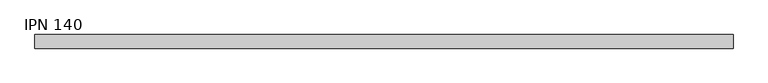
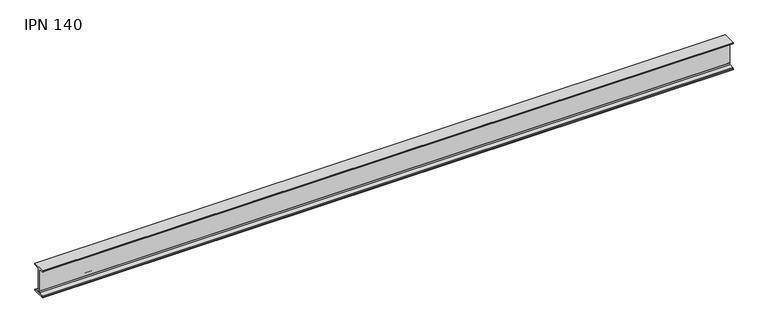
"""IFC4 building model written with IfcOpenShell, lengths in millimetres: beam geometry, IPN - Secciones en I con alas cónicas : IPN 140."""

from ifc_helpers import new_model, si_unit, point, frame, frame_2d, origin, place, context, project, spatial, polyline, circle_curve, trimmed, segment, composite_curve, outline, extrude, source, transform, mapped, element, save


def ipn_140_681980e7(model_context):
    return source(origin(), model_context, "Body", "SweptSolid", [
        extrude(outline(composite_curve([segment(polyline([(33.0, 70.0), (33.0, 66.6671583)]), True, "CONTINUOUS"), segment(trimmed(circle_curve(frame_2d((29.6, 66.6671583)), 3.4), [point((33.0, 66.6671583))], [point((30.0714027, 63.2999964))], False, "CARTESIAN"), True, "CONTINUOUS"), segment(polyline([(30.0714027, 63.2999964), (7.7597073, 60.176359)]), True, "CONTINUOUS"), segment(trimmed(circle_curve(frame_2d((8.55, 54.5314111)), 5.7), [point((7.7597073, 60.176359))], [point((2.85, 54.5314111))], True, "CARTESIAN"), True, "CONTINUOUS"), segment(polyline([(2.85, 54.5314111), (2.85, -54.5314111)]), True, "CONTINUOUS"), segment(trimmed(circle_curve(frame_2d((8.55, -54.5314111)), 5.7), [point((2.85, -54.5314111))], [point((7.7597073, -60.176359))], True, "CARTESIAN"), True, "CONTINUOUS"), segment(polyline([(7.7597073, -60.176359), (30.0714027, -63.2999964)]), True, "CONTINUOUS"), segment(trimmed(circle_curve(frame_2d((29.6, -66.6671583)), 3.4), [point((30.0714027, -63.2999964))], [point((33.0, -66.6671583))], False, "CARTESIAN"), True, "CONTINUOUS"), segment(polyline([(33.0, -66.6671583), (33.0, -70.0), (-33.0, -70.0), (-33.0, -66.6671583)]), True, "CONTINUOUS"), segment(trimmed(circle_curve(frame_2d((-29.6, -66.6671583)), 3.4), [point((-33.0, -66.6671583))], [point((-30.0714027, -63.2999964))], False, "CARTESIAN"), True, "CONTINUOUS"), segment(polyline([(-30.0714027, -63.2999964), (-7.7597073, -60.176359)]), True, "CONTINUOUS"), segment(trimmed(circle_curve(frame_2d((-8.55, -54.5314111)), 5.7), [point((-7.7597073, -60.176359))], [point((-2.85, -54.5314111))], True, "CARTESIAN"), True, "CONTINUOUS"), segment(polyline([(-2.85, -54.5314111), (-2.85, 54.5314111)]), True, "CONTINUOUS"), segment(trimmed(circle_curve(frame_2d((-8.55, 54.5314111)), 5.7), [point((-2.85, 54.5314111))], [point((-7.7597073, 60.176359))], True, "CARTESIAN"), True, "CONTINUOUS"), segment(polyline([(-7.7597073, 60.176359), (-30.0714027, 63.2999964)]), True, "CONTINUOUS"), segment(trimmed(circle_curve(frame_2d((-29.6, 66.6671583)), 3.4), [point((-30.0714027, 63.2999964))], [point((-33.0, 66.6671583))], False, "CARTESIAN"), True, "CONTINUOUS"), segment(polyline([(-33.0, 66.6671583), (-33.0, 70.0), (33.0, 70.0)]), True, "CONTINUOUS")], self_intersect=False)), frame((-1691.0, 0.0, 0.0), z_axis=(1.0, 0.0, 0.0), x_axis=(0.0, 1.0, 0.0)), (0.0, 0.0, 1.0), 3386.0),
    ])


if __name__ == "__main__":
    model = new_model("IFC4")
    model_context = context("Model", 3, world=origin())
    ifc_project = project(units=[si_unit("LENGTHUNIT", "METRE", prefix="MILLI")], contexts=[model_context])
    site = spatial("IfcSite", under=ifc_project)
    building = spatial("IfcBuilding", under=site)
    placement = place(None, origin())
    ipn_140_shape = ipn_140_681980e7(model_context)
    element("IfcBeam", 1, ObjectType="IPN - Secciones en I con alas cónicas : IPN 140", at=placement, inside=building, context=model_context, shape_type="MappedRepresentation", body=[
        mapped(ipn_140_shape, transform((0.0, 0.0, 0.0), x_axis=(1.0, 0.0, 0.0), y_axis=(0.0, 1.0, 0.0), z_axis=(0.0, 0.0, 1.0))),
    ])
    save(model, "model.ifc")
